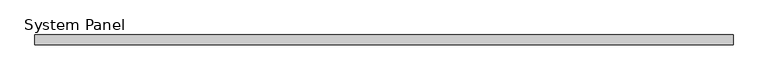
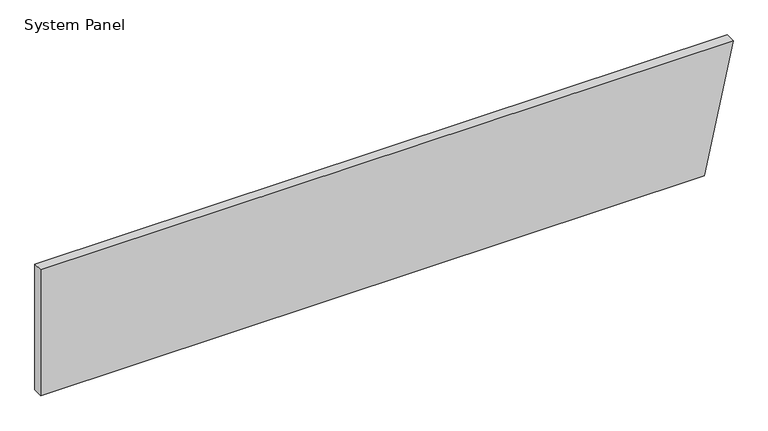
"""IFC4 building model written with IfcOpenShell, lengths in millimetres: plate geometry, System Panel : InsulWall_90mm_Plain_Surfmist."""

from ifc_helpers import new_model, si_unit, frame, origin, place, context, project, spatial, polyline, outline, extrude, source, transform, mapped, element, save


def system_panel_261cd0d2(model_context):
    return source(origin(), model_context, "Body", "SweptSolid", [
        extrude(outline(polyline([(0.0, -3125.4358309), (0.0, 2864.5641691), (1200.0, 3125.4358309), (1200.0, -3125.4358309), (0.0, -3125.4358309)])), frame((0.0, -90.0, 0.0), z_axis=(0.0, 1.0, 0.0), x_axis=(0.0, 0.0, 1.0)), (0.0, 0.0, 1.0), 90.0),
    ])


if __name__ == "__main__":
    model = new_model("IFC4")
    model_context = context("Model", 3, world=origin())
    ifc_project = project(units=[si_unit("LENGTHUNIT", "METRE", prefix="MILLI")], contexts=[model_context])
    site = spatial("IfcSite", under=ifc_project)
    building = spatial("IfcBuilding", under=site)
    placement = place(None, origin())
    system_panel_shape = system_panel_261cd0d2(model_context)
    element("IfcPlate", 1, ObjectType="System Panel : InsulWall_90mm_Plain_Surfmist", at=placement, inside=building, context=model_context, shape_type="MappedRepresentation", body=[
        mapped(system_panel_shape, transform((0.0, 0.0, 0.0), x_axis=(1.0, 0.0, 0.0), y_axis=(0.0, 1.0, 0.0), z_axis=(0.0, 0.0, 1.0))),
    ])
    save(model, "model.ifc")
